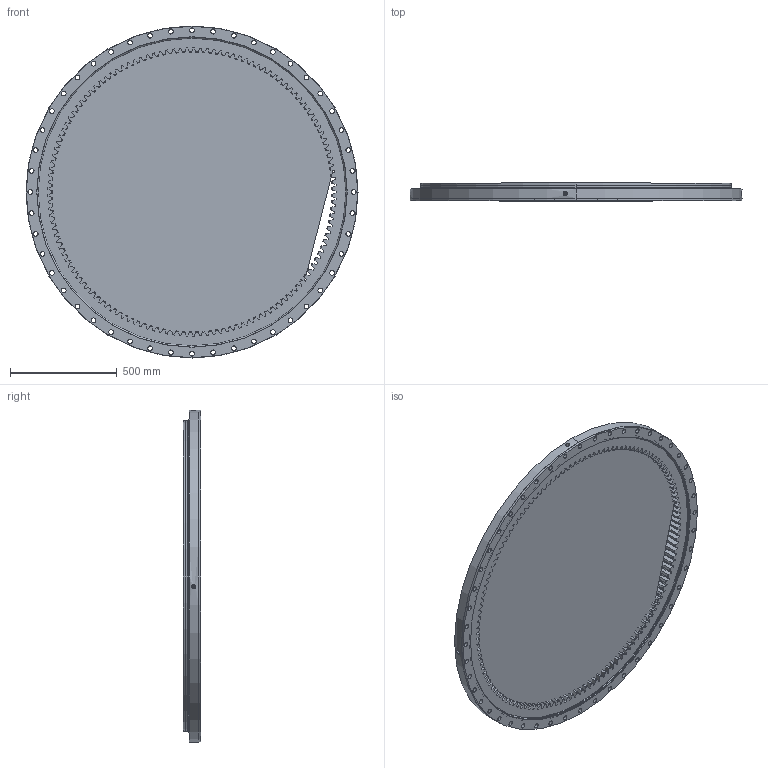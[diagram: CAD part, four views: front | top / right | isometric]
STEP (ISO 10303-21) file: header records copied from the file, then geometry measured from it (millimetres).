
FILE_DESCRIPTION (( 'STEP AP214' ), '1' );
FILE_NAME ('B2125-1-1555AC.STEP', '2022-11-24T06:53:57', ( '' ), ( '' ), 'SwSTEP 2.0', 'SolidWorks 2020', '' );
FILE_SCHEMA (( 'AUTOMOTIVE_DESIGN' ));
Length unit declared in the file: millimetre
Products named in the file (1): B2125-1-1555AC
Bounding box: 1555 x 82 x 1555 mm (x, y, z)
Volume: 30999339.4 mm3; surface area: 3156881.9 mm2
Topology: 4 solids, 4 shells, 1401 faces, 3947 edges, 2518 vertices
Faces by surface type: plane 560, cone 466, cylinder 375
Entity records: 45742 total; most frequent: CARTESIAN_POINT 10383, ORIENTED_EDGE 7702, DIRECTION 6969, EDGE_CURVE 3851, AXIS2_PLACEMENT_3D 2526, VERTEX_POINT 2518, LINE 1917, VECTOR 1917
